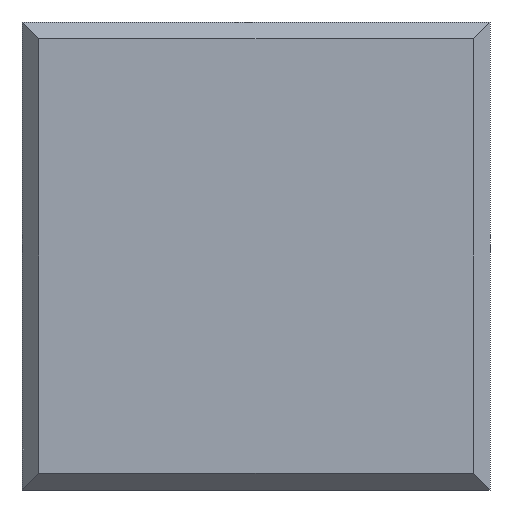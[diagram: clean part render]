
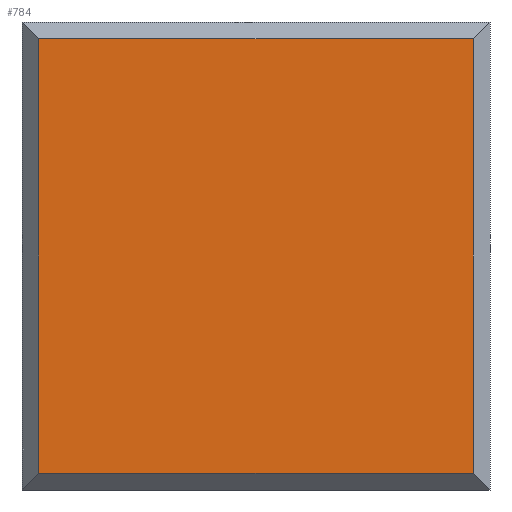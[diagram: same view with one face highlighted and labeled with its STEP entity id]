
A CAD part, front view. The second image highlights one B-rep face of the part: STEP entity #784.
In plain terms, the highlighted planar face has unit normal (0, -1, 0).
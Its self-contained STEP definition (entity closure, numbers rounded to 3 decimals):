
#12 = CARTESIAN_POINT ( 'NONE',  ( -13., -10., -13. ) ) ;
#30 = LINE ( 'NONE', #67, #933 ) ;
#54 = VECTOR ( 'NONE', #260, 1000. ) ;
#67 = CARTESIAN_POINT ( 'NONE',  ( 13., -10., 14. ) ) ;
#70 = DIRECTION ( 'NONE',  ( 0., 0., -1. ) ) ;
#80 = LINE ( 'NONE', #332, #54 ) ;
#105 = EDGE_CURVE ( 'NONE', #842, #895, #876, .T. ) ;
#137 = VECTOR ( 'NONE', #427, 1000. ) ;
#205 = EDGE_CURVE ( 'NONE', #706, #895, #80, .T. ) ;
#241 = CARTESIAN_POINT ( 'NONE',  ( 13., -10., 13. ) ) ;
#260 = DIRECTION ( 'NONE',  ( 0., 0., -1. ) ) ;
#275 = EDGE_CURVE ( 'NONE', #931, #842, #30, .T. ) ;
#332 = CARTESIAN_POINT ( 'NONE',  ( -13., -10., 13. ) ) ;
#337 = FACE_OUTER_BOUND ( 'NONE', #516, .T. ) ;
#359 = CARTESIAN_POINT ( 'NONE',  ( 13., -10., -13. ) ) ;
#383 = AXIS2_PLACEMENT_3D ( 'NONE', #477, #443, #422 ) ;
#402 = CARTESIAN_POINT ( 'NONE',  ( 14., -10., 13. ) ) ;
#420 = CARTESIAN_POINT ( 'NONE',  ( 14., -10., -13. ) ) ;
#422 = DIRECTION ( 'NONE',  ( -1., 0., 0. ) ) ;
#427 = DIRECTION ( 'NONE',  ( -1., 0., 0. ) ) ;
#437 = ORIENTED_EDGE ( 'NONE', *, *, #205, .T. ) ;
#443 = DIRECTION ( 'NONE',  ( 0., -1., 0. ) ) ;
#448 = DIRECTION ( 'NONE',  ( 1., 0., 0. ) ) ;
#454 = PLANE ( 'NONE',  #383 ) ;
#477 = CARTESIAN_POINT ( 'NONE',  ( 13., -10., 13. ) ) ;
#516 = EDGE_LOOP ( 'NONE', ( #653, #437, #524, #625 ) ) ;
#524 = ORIENTED_EDGE ( 'NONE', *, *, #105, .F. ) ;
#533 = LINE ( 'NONE', #402, #898 ) ;
#625 = ORIENTED_EDGE ( 'NONE', *, *, #275, .F. ) ;
#647 = CARTESIAN_POINT ( 'NONE',  ( -13., -10., 13. ) ) ;
#653 = ORIENTED_EDGE ( 'NONE', *, *, #796, .F. ) ;
#706 = VERTEX_POINT ( 'NONE', #647 ) ;
#784 = ADVANCED_FACE ( 'NONE', ( #337 ), #454, .T. ) ;
#796 = EDGE_CURVE ( 'NONE', #706, #931, #533, .T. ) ;
#842 = VERTEX_POINT ( 'NONE', #359 ) ;
#876 = LINE ( 'NONE', #420, #137 ) ;
#895 = VERTEX_POINT ( 'NONE', #12 ) ;
#898 = VECTOR ( 'NONE', #448, 1000. ) ;
#931 = VERTEX_POINT ( 'NONE', #241 ) ;
#933 = VECTOR ( 'NONE', #70, 1000. ) ;
